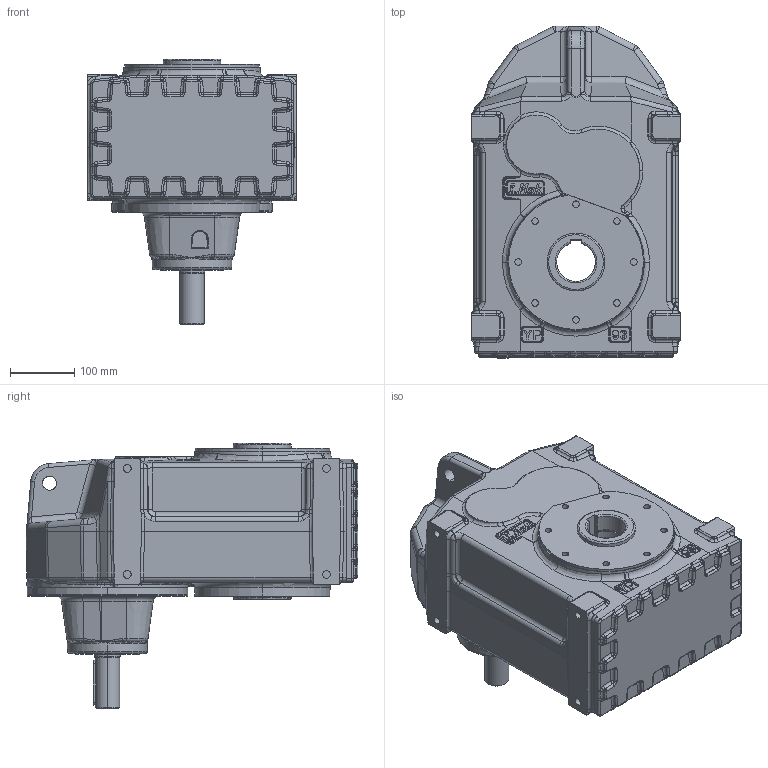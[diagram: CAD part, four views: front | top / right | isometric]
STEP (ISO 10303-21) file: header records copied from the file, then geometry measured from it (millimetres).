
FILE_DESCRIPTION (( 'STEP AP203' ), '1' );
FILE_NAME ('YP 93.step', '2023-10-18T08:20:08', ( '' ), ( '' ), 'SwSTEP 2.0', 'SolidWorks 2022', '' );
FILE_SCHEMA (( 'CONFIG_CONTROL_DESIGN' ));
Length unit declared in the file: millimetre
Products named in the file (4): YP 93; M.suz Kapak İR83,94,104, YP93,104,124, İRK93,104,124, İRSD83, İRC83; YP 93-_YP 93; Şase_Ø250
Assembly tree (3 placements, depth 2):
  YP 93
    Şase_Ø250
    YP 93-_YP 93
    M.suz Kapak İR83,94,104, YP93,104,124, İRK93,104,124, İRSD83, İRC83
Bounding box: 325 x 516.6 x 413 mm (x, y, z)
Volume: 30064677.5 mm3; surface area: 947424.2 mm2
Topology: 3 solids, 3 shells, 1841 faces, 4526 edges, 2747 vertices
Faces by surface type: bspline 680, cylinder 594, plane 424, torus 60, cone 42, sphere 41
Entity records: 120221 total; most frequent: CARTESIAN_POINT 82204, ORIENTED_EDGE 9032, DIRECTION 6102, EDGE_CURVE 4516, VERTEX_POINT 2747, AXIS2_PLACEMENT_3D 2321, EDGE_LOOP 1941, FACE_OUTER_BOUND 1841
